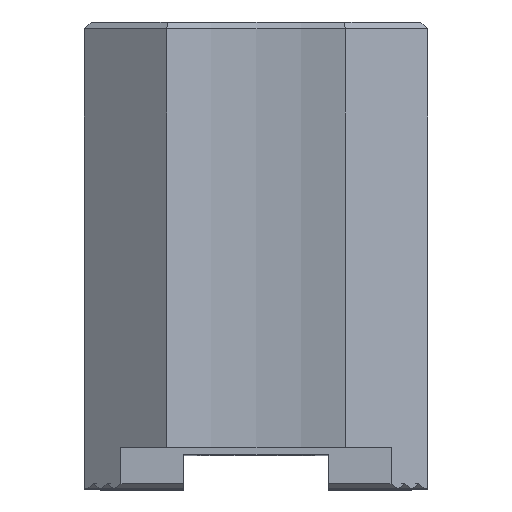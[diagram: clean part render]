
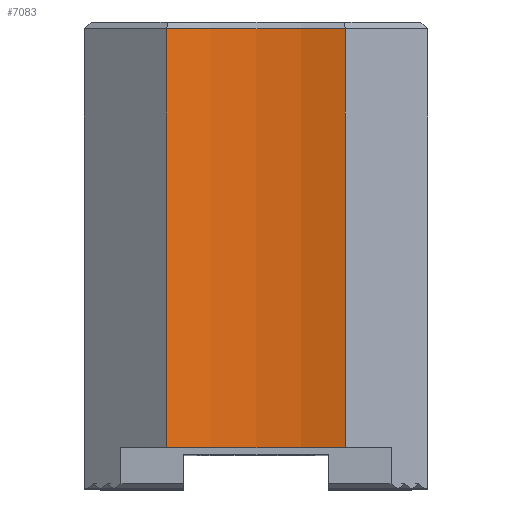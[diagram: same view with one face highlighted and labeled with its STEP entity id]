
A CAD part, top view. The second image highlights one B-rep face of the part: STEP entity #7083.
In plain terms, the highlighted cylindrical face has radius 43.25 mm (diameter 86.5 mm), a partial arc.
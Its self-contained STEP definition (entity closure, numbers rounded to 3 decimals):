
#24=CYLINDRICAL_SURFACE('',#7506,43.25);
#66=CIRCLE('',#7128,43.25);
#102=CIRCLE('',#7225,43.25);
#446=FACE_OUTER_BOUND('',#800,.T.);
#800=EDGE_LOOP('',(#6333,#6334,#6335,#6336));
#843=LINE('',#9335,#1789);
#1753=LINE('',#11320,#2699);
#1789=VECTOR('',#7566,10.);
#2699=VECTOR('',#9224,10.);
#2723=VERTEX_POINT('',#9305);
#2724=VERTEX_POINT('',#9306);
#2735=VERTEX_POINT('',#9334);
#3354=VERTEX_POINT('',#10718);
#3389=EDGE_CURVE('',#2723,#2724,#66,.T.);
#3403=EDGE_CURVE('',#2735,#2723,#843,.T.);
#4086=EDGE_CURVE('',#2735,#3354,#102,.T.);
#4376=EDGE_CURVE('',#2724,#3354,#1753,.T.);
#6333=ORIENTED_EDGE('',*,*,#3389,.T.);
#6334=ORIENTED_EDGE('',*,*,#4376,.T.);
#6335=ORIENTED_EDGE('',*,*,#4086,.F.);
#6336=ORIENTED_EDGE('',*,*,#3403,.T.);
#7083=ADVANCED_FACE('',(#446),#24,.F.);
#7128=AXIS2_PLACEMENT_3D('',#9307,#7544,#7545);
#7225=AXIS2_PLACEMENT_3D('',#10731,#8382,#8383);
#7506=AXIS2_PLACEMENT_3D('',#11319,#9222,#9223);
#7544=DIRECTION('center_axis',(0.,-1.,0.));
#7545=DIRECTION('ref_axis',(0.301,0.,-0.954));
#7566=DIRECTION('',(0.,-1.,0.));
#8382=DIRECTION('center_axis',(0.,-1.,0.));
#8383=DIRECTION('ref_axis',(0.301,0.,-0.954));
#9222=DIRECTION('center_axis',(0.,-1.,0.));
#9223=DIRECTION('ref_axis',(0.301,0.,-0.954));
#9224=DIRECTION('',(0.,1.,0.));
#9305=CARTESIAN_POINT('',(12.,6.,0.));
#9306=CARTESIAN_POINT('',(38.,6.,0.));
#9307=CARTESIAN_POINT('Origin',(25.,6.,41.25));
#9334=CARTESIAN_POINT('',(12.,67.,0.));
#9335=CARTESIAN_POINT('',(12.,34.,0.));
#10718=CARTESIAN_POINT('',(38.,67.,0.));
#10731=CARTESIAN_POINT('Origin',(25.,67.,41.25));
#11319=CARTESIAN_POINT('Origin',(25.,68.,41.25));
#11320=CARTESIAN_POINT('',(38.,34.,0.));
